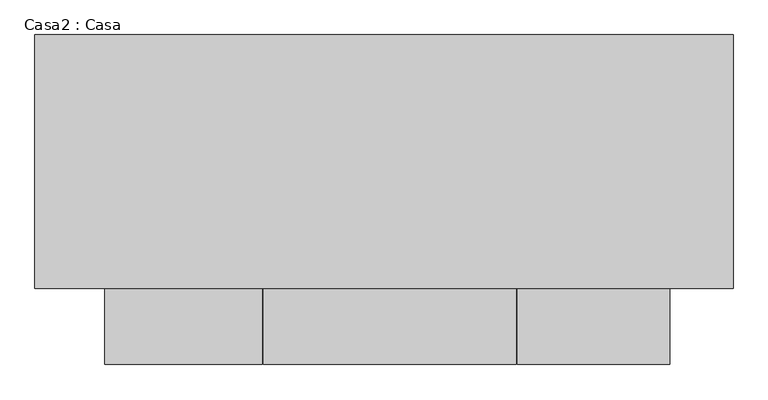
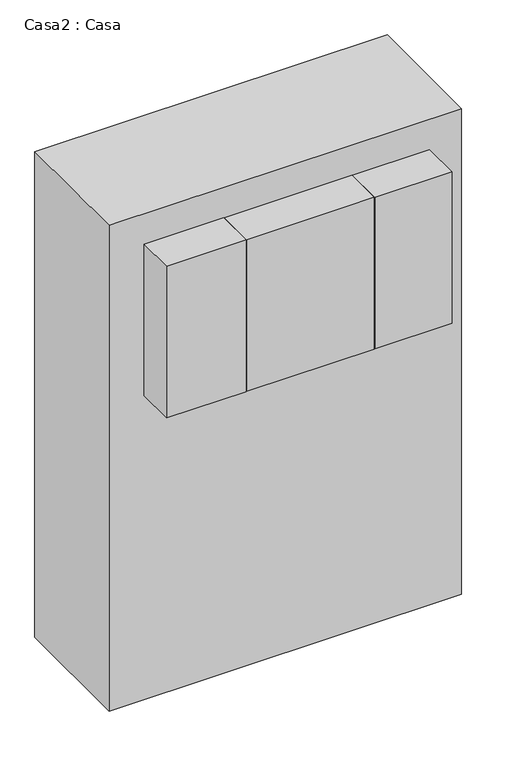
"""IFC4 building model written with IfcOpenShell, lengths in millimetres: furniture geometry, Casa2 : Casa."""

import ifcopenshell
import ifcopenshell.guid

model = None  # the IFC model being written
_history = None  # IfcOwnerHistory: only IFC2X3 demands one
_inside = {}  # id of a spatial element -> (the spatial element, [elements in it])
_under = {}  # id of a project, library or spatial element -> (it, [spatial elements below it])
_declared = {}  # id of a project -> (the project, [libraries it declares])
_typed = {}  # id of a type object -> (the type object, [elements of that type])
_made_of = {}  # id of a material, layer set ... -> (it, [elements and type objects made of it])


def new_model(schema):
    """Start an empty IFC model of exactly this schema.

    Asked for "IFC4X3", IfcOpenShell would pick the latest addendum, in which some entities
    have other attributes; the version numbers below select the first issue.
    IFC2X3 requires an IfcOwnerHistory on every rooted entity: one is made here for all.
    """
    global model, _history
    if schema == "IFC4X3":
        model = ifcopenshell.file(schema_version=(4, 3, 0, 0))
    else:
        model = ifcopenshell.file(schema=schema)
    _inside.clear()
    _under.clear()
    _declared.clear()
    _typed.clear()
    _made_of.clear()
    _history = None
    if model.schema == "IFC2X3":
        org = make("IfcOrganization", Name="unknown")
        user = make(
            "IfcPersonAndOrganization",
            ThePerson=make("IfcPerson", FamilyName="unknown"),
            TheOrganization=org,
        )
        app = make(
            "IfcApplication",
            ApplicationDeveloper=org,
            Version="unknown",
            ApplicationFullName="unknown",
            ApplicationIdentifier="unknown",
        )
        _history = make(
            "IfcOwnerHistory",
            OwningUser=user,
            OwningApplication=app,
            ChangeAction="ADDED",
            CreationDate=0,
        )
    return model


def make(cls, **values):
    """One entity of the class cls with the attributes given. An attribute that is None is left unset."""
    return model.create_entity(
        cls, **{name: value for name, value in values.items() if value is not None}
    )


def rooted(cls, **values):
    """An entity with a GlobalId (a new one), such as an element, a storey or a relation."""
    return make(cls, GlobalId=ifcopenshell.guid.new(), OwnerHistory=_history, **values)


def si_unit(unit_type, name, prefix=None):
    """IfcSIUnit, for example si_unit("LENGTHUNIT", "METRE", prefix="MILLI")."""
    return make("IfcSIUnit", UnitType=unit_type, Prefix=prefix, Name=name)


def assignment(units):
    """IfcUnitAssignment: the units of a project."""
    return None if units is None else make("IfcUnitAssignment", Units=units)


def point(xyz):
    """IfcCartesianPoint."""
    return None if xyz is None else make("IfcCartesianPoint", Coordinates=xyz)


def direction(xyz):
    """IfcDirection."""
    return None if xyz is None else make("IfcDirection", DirectionRatios=xyz)


def frame(location, z_axis=None, x_axis=None):
    """IfcAxis2Placement3D, a coordinate frame: its origin and axes. An axis left out is left unset."""
    return make(
        "IfcAxis2Placement3D",
        Location=point(location),
        Axis=direction(z_axis),
        RefDirection=direction(x_axis),
    )


def origin():
    """The frame at (0, 0, 0) with its axes left unset."""
    return frame((0.0, 0.0, 0.0))


def origin_with_axes():
    """The frame at (0, 0, 0) with the z axis (0, 0, 1) and the x axis (1, 0, 0) written out."""
    return frame((0.0, 0.0, 0.0), z_axis=(0.0, 0.0, 1.0), x_axis=(1.0, 0.0, 0.0))


def place(relative_to, where):
    """IfcLocalPlacement: puts the frame where relative to a parent placement (None: the world)."""
    return make(
        "IfcLocalPlacement", PlacementRelTo=relative_to, RelativePlacement=where
    )


def context(
    kind, dimensions, precision=None, world=None, true_north=None, identifier=None
):
    """IfcGeometricRepresentationContext, for example the 3D "Model" context."""
    return make(
        "IfcGeometricRepresentationContext",
        ContextIdentifier=identifier,
        ContextType=kind,
        CoordinateSpaceDimension=dimensions,
        Precision=precision,
        WorldCoordinateSystem=world,
        TrueNorth=true_north,
    )


def project(units=None, contexts=None):
    """IfcProject with its units and contexts."""
    return rooted(
        "IfcProject",
        Name="project",
        RepresentationContexts=contexts,
        UnitsInContext=assignment(units),
    )


def spatial(cls, under=None, at=None, **own):
    """A site, building, storey or space (cls), placed at a placement, below another one or the project."""
    s = rooted(cls, ObjectPlacement=at, **own)
    if under is not None:
        _under.setdefault(under.id(), (under, []))[1].append(s)
    return s


def polyline(points):
    """IfcPolyline through the points."""
    return make("IfcPolyline", Points=[point(p) for p in points])


def outline(outer, holes=None, kind="AREA"):
    """IfcArbitraryClosedProfileDef: a profile drawn as a closed curve; with holes, ...WithVoids."""
    if holes is None:
        return make("IfcArbitraryClosedProfileDef", ProfileType=kind, OuterCurve=outer)
    return make(
        "IfcArbitraryProfileDefWithVoids",
        ProfileType=kind,
        OuterCurve=outer,
        InnerCurves=holes,
    )


def extrude(swept, where, along, depth):
    """IfcExtrudedAreaSolid: the profile swept, set in the frame where, extruded along a direction by depth."""
    return make(
        "IfcExtrudedAreaSolid",
        SweptArea=swept,
        Position=where,
        ExtrudedDirection=direction(along),
        Depth=depth,
    )


def shape(context_of_items, identifier, shape_type, items):
    """IfcShapeRepresentation: the items that make up one representation, for example the "Body"."""
    return make(
        "IfcShapeRepresentation",
        ContextOfItems=context_of_items,
        RepresentationIdentifier=identifier,
        RepresentationType=shape_type,
        Items=items,
    )


def source(mapping_origin, context_of_items, identifier, shape_type, items):
    """IfcRepresentationMap: a shape defined once, which mapped items show again and again."""
    return make(
        "IfcRepresentationMap",
        MappingOrigin=mapping_origin,
        MappedRepresentation=shape(context_of_items, identifier, shape_type, items),
    )


def transform(
    local_origin,
    x_axis=None,
    y_axis=None,
    z_axis=None,
    scale=None,
    scale2=None,
    scale3=None,
    uniform=True,
):
    """IfcCartesianTransformationOperator3D, or its non-uniform kind. x_axis, y_axis, z_axis: its Axis1, 2, 3."""
    if uniform:
        return make(
            "IfcCartesianTransformationOperator3D",
            Axis1=direction(x_axis),
            Axis2=direction(y_axis),
            LocalOrigin=point(local_origin),
            Scale=scale,
            Axis3=direction(z_axis),
        )
    return make(
        "IfcCartesianTransformationOperator3DnonUniform",
        Axis1=direction(x_axis),
        Axis2=direction(y_axis),
        LocalOrigin=point(local_origin),
        Scale=scale,
        Axis3=direction(z_axis),
        Scale2=scale2,
        Scale3=scale3,
    )


def mapped(mapping_source, mapping_target):
    """IfcMappedItem: shows the shape of a source again, moved by a transform."""
    return make(
        "IfcMappedItem", MappingSource=mapping_source, MappingTarget=mapping_target
    )


def made_of(thing, what):
    """Note that an element or type object is made of a material, layer set ...; save() writes the relation."""
    if what is not None:
        _made_of.setdefault(what.id(), (what, []))[1].append(thing)
    return thing


def element(
    cls,
    number,
    at=None,
    inside=None,
    cuts=None,
    type_object=None,
    material=None,
    context=None,
    identifier="Body",
    shape_type=None,
    held_by="IfcProductDefinitionShape",
    body=None,
    shapes=None,
    **own,
):
    """One element of the class cls, such as IfcWall. Its Tag is "e" and its number.

    at: its placement. inside: the storey or other place that contains it. cuts: it is an
    opening in that element (IfcRelVoidsElement). A single representation is given by context,
    identifier, shape_type and body (its items); several are given by shapes. held_by: the class
    of the entity that holds the representations. save() writes the other relations.
    """
    e = rooted(cls, Tag="e%d" % number, ObjectPlacement=at, **own)
    if body is not None:
        shapes = [shape(context, identifier, shape_type, body)]
    if shapes is not None:
        e.Representation = make(held_by, Representations=shapes)
    if inside is not None:
        _inside.setdefault(inside.id(), (inside, []))[1].append(e)
    if cuts is not None:
        rooted(
            "IfcRelVoidsElement", RelatingBuildingElement=cuts, RelatedOpeningElement=e
        )
    if type_object is not None:
        _typed.setdefault(type_object.id(), (type_object, []))[1].append(e)
    return made_of(e, material)


def aggregate(whole, parts):
    """IfcRelAggregates: a whole, such as a stair, and the parts it consists of."""
    return rooted("IfcRelAggregates", RelatingObject=whole, RelatedObjects=parts)


def save(model, path):
    """Write the relations noted so far, then the file.

    IfcRelAggregates (storeys below a building ...), IfcRelContainedInSpatialStructure (elements
    in a storey), IfcRelDefinesByType, IfcRelAssociatesMaterial and IfcRelDeclares: one each for
    every whole, place, type object, material and project.
    """
    for whole, parts in _under.values():
        aggregate(whole, parts)
    for where, things in _inside.values():
        rooted(
            "IfcRelContainedInSpatialStructure",
            RelatedElements=things,
            RelatingStructure=where,
        )
    for kind, things in _typed.values():
        rooted("IfcRelDefinesByType", RelatedObjects=things, RelatingType=kind)
    for what, things in _made_of.values():
        rooted("IfcRelAssociatesMaterial", RelatedObjects=things, RelatingMaterial=what)
    for by, libraries in _declared.values():
        rooted("IfcRelDeclares", RelatingContext=by, RelatedDefinitions=libraries)
    model.write(path)


def casa2_casa_20683f13(model_context):
    return source(origin(), model_context, "Body", "SweptSolid", [
        extrude(outline(polyline([(-220672.9409224, -109673.2549802), (-220424.9409224, -109673.2549802), (-220424.9409224, -109793.2549802), (-220672.9409224, -109793.2549802), (-220672.9409224, -109673.2549802)])), frame((0.0, 0.0, 1000.0), z_axis=(0.0, 0.0, 1.0), x_axis=(1.0, 0.0, 0.0)), (0.0, 0.0, 1.0), 500.0),
        extrude(outline(polyline([(-220022.9409224, -109793.2549802), (-220022.9409224, -109673.2549802), (-219782.9409224, -109673.2549802), (-219782.9409224, -109793.2549802), (-220022.9409224, -109793.2549802)])), frame((0.0, 0.0, 1000.0), z_axis=(0.0, 0.0, 1.0), x_axis=(1.0, 0.0, 0.0)), (0.0, 0.0, 1.0), 500.0),
        extrude(outline(polyline([(-220024.9409224, -109793.2549802), (-220422.9409224, -109793.2549802), (-220422.9409224, -109673.2549802), (-220024.9409224, -109673.2549802), (-220024.9409224, -109793.2549802)])), frame((0.0, 0.0, 1000.0), z_axis=(0.0, 0.0, 1.0), x_axis=(1.0, 0.0, 0.0)), (0.0, 0.0, 1.0), 500.0),
        extrude(outline(polyline([(-219682.9409224, -109273.2549802), (-219682.9409224, -109673.2549802), (-220782.9409224, -109673.2549802), (-220782.9409224, -109273.2549802), (-219682.9409224, -109273.2549802)])), origin_with_axes(), (0.0, 0.0, 1.0), 1600.0),
    ])


if __name__ == "__main__":
    model = new_model("IFC4")
    model_context = context("Model", 3, world=origin())
    ifc_project = project(units=[si_unit("LENGTHUNIT", "METRE", prefix="MILLI")], contexts=[model_context])
    site = spatial("IfcSite", under=ifc_project)
    building = spatial("IfcBuilding", under=site)
    placement = place(None, origin())
    casa2_casa_shape = casa2_casa_20683f13(model_context)
    element("IfcFurniture", 1, ObjectType="Casa2 : Casa", at=placement, inside=building, context=model_context, shape_type="MappedRepresentation", body=[
        mapped(casa2_casa_shape, transform((0.0, 0.0, 0.0), x_axis=(1.0, 0.0, 0.0), y_axis=(0.0, 1.0, 0.0), z_axis=(0.0, 0.0, 1.0))),
    ])
    save(model, "model.ifc")
